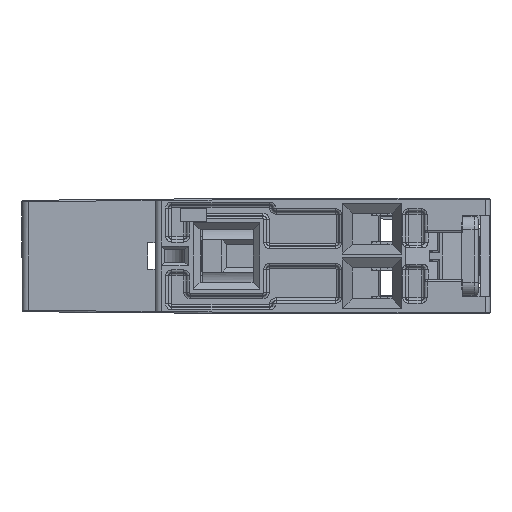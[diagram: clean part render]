
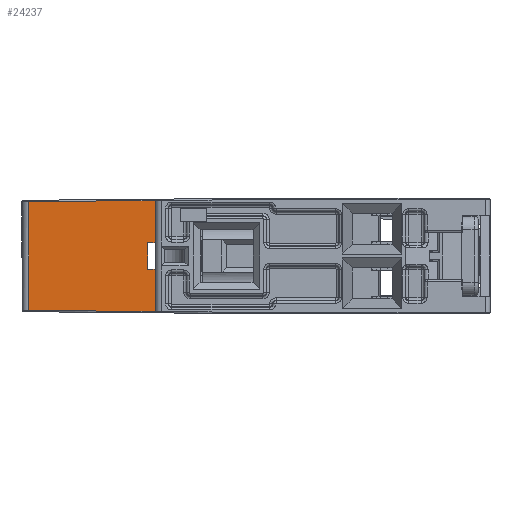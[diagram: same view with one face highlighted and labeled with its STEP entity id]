
A CAD part, left-side view. The second image highlights one B-rep face of the part: STEP entity #24237.
In plain terms, the highlighted planar face has unit normal (-1, 0.009, 0).
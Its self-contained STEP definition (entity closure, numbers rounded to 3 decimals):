
#23161 = VERTEX_POINT ( 'NONE', #90654 ) ;
#23176 = EDGE_CURVE ( 'NONE', #23161, #23179, #90707, .T. ) ;
#23179 = VERTEX_POINT ( 'NONE', #90702 ) ;
#23187 = VERTEX_POINT ( 'NONE', #90694 ) ;
#23191 = EDGE_CURVE ( 'NONE', #23194, #23187, #90692, .T. ) ;
#23194 = VERTEX_POINT ( 'NONE', #90687 ) ;
#24212 = ORIENTED_EDGE ( 'NONE', *, *, #23191, .T. ) ;
#24214 = ORIENTED_EDGE ( 'NONE', *, *, #24265, .F. ) ;
#24237 = ADVANCED_FACE ( 'NONE', ( #94257 ), #94221, .T. ) ;
#24238 = EDGE_LOOP ( 'NONE', ( #24239, #24240, #24243, #24244, #24245, #24247, #24212, #24214 ) ) ;
#24239 = ORIENTED_EDGE ( 'NONE', *, *, #23176, .F. ) ;
#24240 = ORIENTED_EDGE ( 'NONE', *, *, #24241, .T. ) ;
#24241 = EDGE_CURVE ( 'NONE', #23161, #54422, #94326, .T. ) ;
#24243 = ORIENTED_EDGE ( 'NONE', *, *, #54417, .F. ) ;
#24244 = ORIENTED_EDGE ( 'NONE', *, *, #54656, .T. ) ;
#24245 = ORIENTED_EDGE ( 'NONE', *, *, #53258, .F. ) ;
#24247 = ORIENTED_EDGE ( 'NONE', *, *, #24248, .T. ) ;
#24248 = EDGE_CURVE ( 'NONE', #53255, #23194, #94317, .T. ) ;
#24265 = EDGE_CURVE ( 'NONE', #23179, #23187, #94381, .T. ) ;
#53049 = VERTEX_POINT ( 'NONE', #55689 ) ;
#53255 = VERTEX_POINT ( 'NONE', #56570 ) ;
#53258 = EDGE_CURVE ( 'NONE', #53255, #53049, #56578, .T. ) ;
#54408 = VERTEX_POINT ( 'NONE', #101946 ) ;
#54417 = EDGE_CURVE ( 'NONE', #54408, #54422, #101991, .T. ) ;
#54422 = VERTEX_POINT ( 'NONE', #101982 ) ;
#54656 = EDGE_CURVE ( 'NONE', #54408, #53049, #102381, .T. ) ;
#55689 = CARTESIAN_POINT ( 'NONE',  ( -22.283, 62.909, -8.219 ) ) ;
#56549 = DIRECTION ( 'NONE',  ( 0.009, 1., 0.009 ) ) ;
#56550 = CARTESIAN_POINT ( 'NONE',  ( -22.45, 43.8, -8.386 ) ) ;
#56570 = CARTESIAN_POINT ( 'NONE',  ( -22.45, 43.8, -8.386 ) ) ;
#56578 = LINE ( 'NONE', #56550, #56744 ) ;
#56744 = VECTOR ( 'NONE', #56549, 1000. ) ;
#90654 = CARTESIAN_POINT ( 'NONE',  ( -22.45, 43.8, 2. ) ) ;
#90687 = CARTESIAN_POINT ( 'NONE',  ( -22.45, 43.8, -2. ) ) ;
#90689 = DIRECTION ( 'NONE',  ( 0.009, 1., 0. ) ) ;
#90690 = VECTOR ( 'NONE', #90689, 1000. ) ;
#90691 = CARTESIAN_POINT ( 'NONE',  ( -22.45, 43.8, -2. ) ) ;
#90692 = LINE ( 'NONE', #90691, #90690 ) ;
#90694 = CARTESIAN_POINT ( 'NONE',  ( -22.44, 44.9, -2. ) ) ;
#90702 = CARTESIAN_POINT ( 'NONE',  ( -22.44, 44.9, 2. ) ) ;
#90704 = DIRECTION ( 'NONE',  ( 0.009, 1., 0. ) ) ;
#90705 = VECTOR ( 'NONE', #90704, 1000. ) ;
#90706 = CARTESIAN_POINT ( 'NONE',  ( -22.45, 43.8, 2. ) ) ;
#90707 = LINE ( 'NONE', #90706, #90705 ) ;
#94213 = DIRECTION ( 'NONE',  ( 0., 0., 1. ) ) ;
#94214 = DIRECTION ( 'NONE',  ( -1., 0.009, 0. ) ) ;
#94215 = CARTESIAN_POINT ( 'NONE',  ( -22.45, 43.8, -8.864 ) ) ;
#94217 = AXIS2_PLACEMENT_3D ( 'NONE', #94215, #94214, #94213 ) ;
#94221 = PLANE ( 'NONE',  #94217 ) ;
#94257 = FACE_OUTER_BOUND ( 'NONE', #24238, .T. ) ;
#94311 = DIRECTION ( 'NONE',  ( 0., 0., 1. ) ) ;
#94313 = VECTOR ( 'NONE', #94311, 1000. ) ;
#94315 = CARTESIAN_POINT ( 'NONE',  ( -22.45, 43.8, -8.386 ) ) ;
#94317 = LINE ( 'NONE', #94315, #94313 ) ;
#94322 = DIRECTION ( 'NONE',  ( 0., 0., 1. ) ) ;
#94323 = VECTOR ( 'NONE', #94322, 1000. ) ;
#94324 = CARTESIAN_POINT ( 'NONE',  ( -22.45, 43.8, 2. ) ) ;
#94326 = LINE ( 'NONE', #94324, #94323 ) ;
#94376 = DIRECTION ( 'NONE',  ( 0., 0., -1. ) ) ;
#94378 = VECTOR ( 'NONE', #94376, 1000. ) ;
#94379 = CARTESIAN_POINT ( 'NONE',  ( -22.44, 44.9, 2. ) ) ;
#94381 = LINE ( 'NONE', #94379, #94378 ) ;
#101946 = CARTESIAN_POINT ( 'NONE',  ( -22.283, 62.909, 8.219 ) ) ;
#101982 = CARTESIAN_POINT ( 'NONE',  ( -22.45, 43.8, 8.386 ) ) ;
#101983 = DIRECTION ( 'NONE',  ( -0.009, -1., 0.009 ) ) ;
#101984 = VECTOR ( 'NONE', #101983, 1000. ) ;
#101990 = CARTESIAN_POINT ( 'NONE',  ( -22.283, 62.909, 8.219 ) ) ;
#101991 = LINE ( 'NONE', #101990, #101984 ) ;
#102378 = DIRECTION ( 'NONE',  ( 0., 0., -1. ) ) ;
#102379 = VECTOR ( 'NONE', #102378, 1000. ) ;
#102380 = CARTESIAN_POINT ( 'NONE',  ( -22.283, 62.909, 8.219 ) ) ;
#102381 = LINE ( 'NONE', #102380, #102379 ) ;
